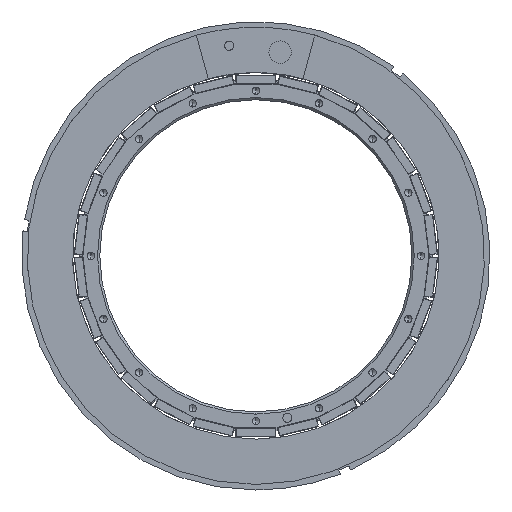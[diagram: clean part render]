
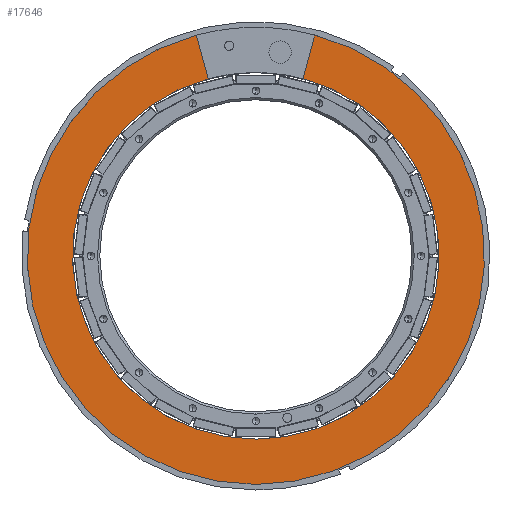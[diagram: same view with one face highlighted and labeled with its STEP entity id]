
A CAD part, front view. The second image highlights one B-rep face of the part: STEP entity #17646.
In plain terms, the highlighted planar face has unit normal (0, -1, 0).
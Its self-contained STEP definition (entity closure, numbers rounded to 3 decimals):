
#644 = DIRECTION ( 'NONE',  ( 0.001, 0., -1. ) ) ;
#842 = VERTEX_POINT ( 'NONE', #14294 ) ;
#845 = CARTESIAN_POINT ( 'NONE',  ( 77.603, 69.317, 262.583 ) ) ;
#1010 = CARTESIAN_POINT ( 'NONE',  ( 56.425, 69.317, 183.158 ) ) ;
#1593 = DIRECTION ( 'NONE',  ( 0., 1., 0. ) ) ;
#2100 = DIRECTION ( 'NONE',  ( 0.001, 0., -1. ) ) ;
#2580 = EDGE_CURVE ( 'NONE', #15393, #842, #18057, .T. ) ;
#2663 = PLANE ( 'NONE',  #11479 ) ;
#2836 = CARTESIAN_POINT ( 'NONE',  ( 35.053, 69.317, 262.531 ) ) ;
#3464 = ORIENTED_EDGE ( 'NONE', *, *, #20947, .T. ) ;
#4356 = EDGE_CURVE ( 'NONE', #842, #17798, #22455, .T. ) ;
#6270 = CARTESIAN_POINT ( 'NONE',  ( 77.603, 69.317, 262.583 ) ) ;
#6829 = VECTOR ( 'NONE', #20223, 1000. ) ;
#7037 = DIRECTION ( 'NONE',  ( 0., 1., 0. ) ) ;
#7432 = CARTESIAN_POINT ( 'NONE',  ( 56.425, 69.317, 183.158 ) ) ;
#8007 = CIRCLE ( 'NONE', #23411, 82.2 ) ;
#9106 = VECTOR ( 'NONE', #13990, 1000. ) ;
#10400 = DIRECTION ( 'NONE',  ( 0., 1., 0. ) ) ;
#10822 = ORIENTED_EDGE ( 'NONE', *, *, #21571, .F. ) ;
#11479 = AXIS2_PLACEMENT_3D ( 'NONE', #1010, #10400, #644 ) ;
#12231 = LINE ( 'NONE', #6270, #9106 ) ;
#12956 = EDGE_CURVE ( 'NONE', #19616, #21716, #18147, .T. ) ;
#13121 = ORIENTED_EDGE ( 'NONE', *, *, #4356, .F. ) ;
#13184 = CARTESIAN_POINT ( 'NONE',  ( 29.775, 69.317, 282.133 ) ) ;
#13720 = DIRECTION ( 'NONE',  ( 0., 1., 0. ) ) ;
#13990 = DIRECTION ( 'NONE',  ( 0.258, 0., 0.966 ) ) ;
#14294 = CARTESIAN_POINT ( 'NONE',  ( 56.551, 69.317, 80.658 ) ) ;
#14345 = CARTESIAN_POINT ( 'NONE',  ( 35.053, 69.317, 262.531 ) ) ;
#14759 = DIRECTION ( 'NONE',  ( 0.001, 0., -1. ) ) ;
#15317 = VERTEX_POINT ( 'NONE', #14345 ) ;
#15367 = CARTESIAN_POINT ( 'NONE',  ( 56.425, 69.317, 183.158 ) ) ;
#15393 = VERTEX_POINT ( 'NONE', #22736 ) ;
#15981 = AXIS2_PLACEMENT_3D ( 'NONE', #15367, #13720, #17641 ) ;
#16649 = LINE ( 'NONE', #2836, #6829 ) ;
#16666 = CARTESIAN_POINT ( 'NONE',  ( 56.425, 69.317, 183.158 ) ) ;
#16725 = ORIENTED_EDGE ( 'NONE', *, *, #18759, .F. ) ;
#17641 = DIRECTION ( 'NONE',  ( 0.001, 0., -1. ) ) ;
#17646 = ADVANCED_FACE ( 'NONE', ( #22083 ), #2663, .F. ) ;
#17798 = VERTEX_POINT ( 'NONE', #13184 ) ;
#18057 = CIRCLE ( 'NONE', #24162, 102.5 ) ;
#18147 = CIRCLE ( 'NONE', #24652, 82.2 ) ;
#18759 = EDGE_CURVE ( 'NONE', #19616, #15393, #12231, .T. ) ;
#18828 = DIRECTION ( 'NONE',  ( 0.001, 0., -1. ) ) ;
#19352 = CARTESIAN_POINT ( 'NONE',  ( 56.425, 69.317, 183.158 ) ) ;
#19616 = VERTEX_POINT ( 'NONE', #845 ) ;
#20223 = DIRECTION ( 'NONE',  ( 0.26, 0., -0.966 ) ) ;
#20837 = CARTESIAN_POINT ( 'NONE',  ( 56.526, 69.317, 100.958 ) ) ;
#20947 = EDGE_CURVE ( 'NONE', #21716, #15317, #8007, .T. ) ;
#21022 = DIRECTION ( 'NONE',  ( 0., 1., 0. ) ) ;
#21571 = EDGE_CURVE ( 'NONE', #17798, #15317, #16649, .T. ) ;
#21716 = VERTEX_POINT ( 'NONE', #20837 ) ;
#22064 = ORIENTED_EDGE ( 'NONE', *, *, #12956, .T. ) ;
#22083 = FACE_OUTER_BOUND ( 'NONE', #22810, .T. ) ;
#22455 = CIRCLE ( 'NONE', #15981, 102.5 ) ;
#22736 = CARTESIAN_POINT ( 'NONE',  ( 82.833, 69.317, 282.198 ) ) ;
#22800 = ORIENTED_EDGE ( 'NONE', *, *, #2580, .F. ) ;
#22810 = EDGE_LOOP ( 'NONE', ( #10822, #13121, #22800, #16725, #22064, #3464 ) ) ;
#23411 = AXIS2_PLACEMENT_3D ( 'NONE', #7432, #1593, #18828 ) ;
#24162 = AXIS2_PLACEMENT_3D ( 'NONE', #16666, #7037, #14759 ) ;
#24652 = AXIS2_PLACEMENT_3D ( 'NONE', #19352, #21022, #2100 ) ;
